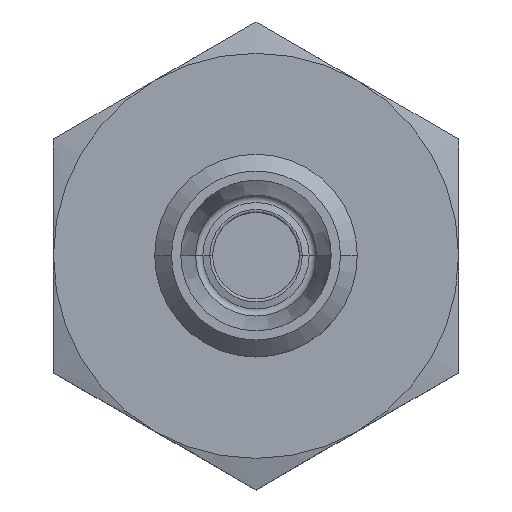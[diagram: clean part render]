
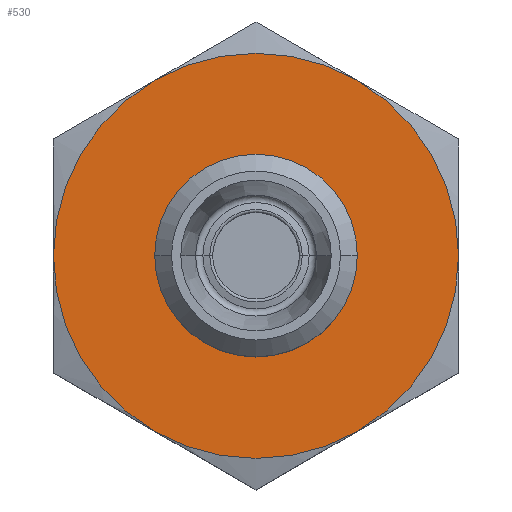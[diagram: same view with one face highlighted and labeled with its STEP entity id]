
A CAD part, top view. The second image highlights one B-rep face of the part: STEP entity #530.
In plain terms, the highlighted planar face has unit normal (0, 0, 1).
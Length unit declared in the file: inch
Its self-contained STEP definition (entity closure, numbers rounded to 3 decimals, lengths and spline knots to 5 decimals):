
#246 = EDGE_CURVE ( 'NONE', #247, #248, #959, .T. ) ;
#247 = VERTEX_POINT ( 'NONE', #965 ) ;
#248 = VERTEX_POINT ( 'NONE', #964 ) ;
#530 = ADVANCED_FACE ( 'NONE', ( #1254, #1253 ), #1259, .F. ) ;
#531 = EDGE_LOOP ( 'NONE', ( #570, #572 ) ) ;
#532 = EDGE_CURVE ( 'NONE', #585, #583, #1248, .T. ) ;
#533 = ORIENTED_EDGE ( 'NONE', *, *, #534, .T. ) ;
#534 = EDGE_CURVE ( 'NONE', #585, #535, #1187, .T. ) ;
#535 = VERTEX_POINT ( 'NONE', #1636 ) ;
#536 = ORIENTED_EDGE ( 'NONE', *, *, #537, .F. ) ;
#537 = EDGE_CURVE ( 'NONE', #577, #535, #1539, .T. ) ;
#570 = ORIENTED_EDGE ( 'NONE', *, *, #571, .T. ) ;
#571 = EDGE_CURVE ( 'NONE', #248, #247, #1599, .T. ) ;
#572 = ORIENTED_EDGE ( 'NONE', *, *, #246, .T. ) ;
#573 = EDGE_LOOP ( 'NONE', ( #574, #578, #581, #584, #533, #536 ) ) ;
#574 = ORIENTED_EDGE ( 'NONE', *, *, #575, .F. ) ;
#575 = EDGE_CURVE ( 'NONE', #576, #577, #1593, .T. ) ;
#576 = VERTEX_POINT ( 'NONE', #1594 ) ;
#577 = VERTEX_POINT ( 'NONE', #1589 ) ;
#578 = ORIENTED_EDGE ( 'NONE', *, *, #579, .F. ) ;
#579 = EDGE_CURVE ( 'NONE', #580, #576, #1588, .T. ) ;
#580 = VERTEX_POINT ( 'NONE', #1469 ) ;
#581 = ORIENTED_EDGE ( 'NONE', *, *, #582, .F. ) ;
#582 = EDGE_CURVE ( 'NONE', #583, #580, #1467, .T. ) ;
#583 = VERTEX_POINT ( 'NONE', #1468 ) ;
#584 = ORIENTED_EDGE ( 'NONE', *, *, #532, .F. ) ;
#585 = VERTEX_POINT ( 'NONE', #1462 ) ;
#956 = DIRECTION ( 'NONE',  ( 0., 0., -1. ) ) ;
#957 = CARTESIAN_POINT ( 'NONE',  ( 0., 0., -0.453 ) ) ;
#958 = AXIS2_PLACEMENT_3D ( 'NONE', #957, #956, #966 ) ;
#959 = CIRCLE ( 'NONE', #958, 0.2055 ) ;
#964 = CARTESIAN_POINT ( 'NONE',  ( -0.2055, 0., -0.453 ) ) ;
#965 = CARTESIAN_POINT ( 'NONE',  ( 0.2055, 0., -0.453 ) ) ;
#966 = DIRECTION ( 'NONE',  ( -1., 0., 0. ) ) ;
#1174 = DIRECTION ( 'NONE',  ( 1., 0., 0. ) ) ;
#1185 = DIRECTION ( 'NONE',  ( 0., 0., 1. ) ) ;
#1187 = CIRCLE ( 'NONE', #1194, 0.4375 ) ;
#1192 = CARTESIAN_POINT ( 'NONE',  ( 0., 0., -0.453 ) ) ;
#1194 = AXIS2_PLACEMENT_3D ( 'NONE', #1192, #1185, #1174 ) ;
#1244 = DIRECTION ( 'NONE',  ( -1., 0., 0. ) ) ;
#1245 = DIRECTION ( 'NONE',  ( 0., 0., -1. ) ) ;
#1246 = CARTESIAN_POINT ( 'NONE',  ( 0., 0., -0.453 ) ) ;
#1247 = AXIS2_PLACEMENT_3D ( 'NONE', #1246, #1245, #1244 ) ;
#1248 = CIRCLE ( 'NONE', #1247, 0.4375 ) ;
#1249 = DIRECTION ( 'NONE',  ( -1., 0., 0. ) ) ;
#1250 = DIRECTION ( 'NONE',  ( 0., 0., -1. ) ) ;
#1251 = CARTESIAN_POINT ( 'NONE',  ( 0., 0.182, -0.453 ) ) ;
#1252 = AXIS2_PLACEMENT_3D ( 'NONE', #1251, #1250, #1249 ) ;
#1253 = FACE_OUTER_BOUND ( 'NONE', #573, .T. ) ;
#1254 = FACE_BOUND ( 'NONE', #531, .T. ) ;
#1259 = PLANE ( 'NONE',  #1252 ) ;
#1462 = CARTESIAN_POINT ( 'NONE',  ( 0.4375, 0., -0.453 ) ) ;
#1463 = DIRECTION ( 'NONE',  ( -1., 0., 0. ) ) ;
#1464 = DIRECTION ( 'NONE',  ( 0., 0., -1. ) ) ;
#1465 = CARTESIAN_POINT ( 'NONE',  ( 0., 0., -0.453 ) ) ;
#1466 = AXIS2_PLACEMENT_3D ( 'NONE', #1465, #1464, #1463 ) ;
#1467 = CIRCLE ( 'NONE', #1466, 0.4375 ) ;
#1468 = CARTESIAN_POINT ( 'NONE',  ( 0.21875, -0.37889, -0.453 ) ) ;
#1469 = CARTESIAN_POINT ( 'NONE',  ( -0.21875, -0.37889, -0.453 ) ) ;
#1470 = DIRECTION ( 'NONE',  ( -1., 0., 0. ) ) ;
#1471 = DIRECTION ( 'NONE',  ( 0., 0., -1. ) ) ;
#1472 = CARTESIAN_POINT ( 'NONE',  ( 0., 0., -0.453 ) ) ;
#1520 = DIRECTION ( 'NONE',  ( -1., 0., 0. ) ) ;
#1537 = CARTESIAN_POINT ( 'NONE',  ( 0., 0., -0.453 ) ) ;
#1538 = AXIS2_PLACEMENT_3D ( 'NONE', #1537, #1619, #1520 ) ;
#1539 = CIRCLE ( 'NONE', #1538, 0.4375 ) ;
#1587 = AXIS2_PLACEMENT_3D ( 'NONE', #1472, #1471, #1470 ) ;
#1588 = CIRCLE ( 'NONE', #1587, 0.4375 ) ;
#1589 = CARTESIAN_POINT ( 'NONE',  ( -0.21875, 0.37889, -0.453 ) ) ;
#1590 = DIRECTION ( 'NONE',  ( -1., 0., 0. ) ) ;
#1591 = DIRECTION ( 'NONE',  ( 0., 0., -1. ) ) ;
#1592 = AXIS2_PLACEMENT_3D ( 'NONE', #1600, #1591, #1590 ) ;
#1593 = CIRCLE ( 'NONE', #1592, 0.4375 ) ;
#1594 = CARTESIAN_POINT ( 'NONE',  ( -0.4375, 0., -0.453 ) ) ;
#1595 = DIRECTION ( 'NONE',  ( -1., 0., 0. ) ) ;
#1596 = DIRECTION ( 'NONE',  ( 0., 0., -1. ) ) ;
#1597 = CARTESIAN_POINT ( 'NONE',  ( 0., 0., -0.453 ) ) ;
#1598 = AXIS2_PLACEMENT_3D ( 'NONE', #1597, #1596, #1595 ) ;
#1599 = CIRCLE ( 'NONE', #1598, 0.2055 ) ;
#1600 = CARTESIAN_POINT ( 'NONE',  ( 0., 0., -0.453 ) ) ;
#1619 = DIRECTION ( 'NONE',  ( 0., 0., -1. ) ) ;
#1636 = CARTESIAN_POINT ( 'NONE',  ( 0.21875, 0.37889, -0.453 ) ) ;
